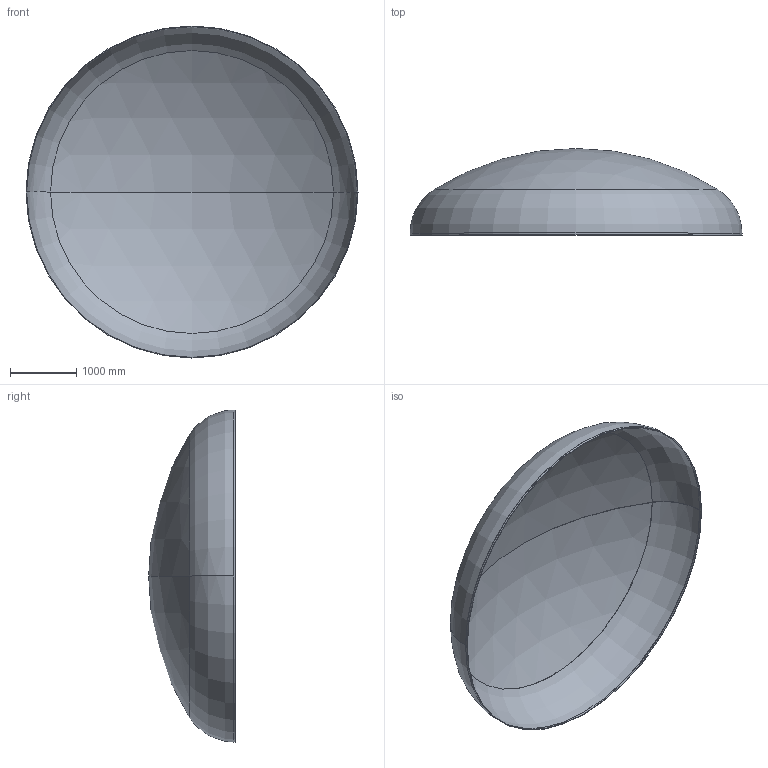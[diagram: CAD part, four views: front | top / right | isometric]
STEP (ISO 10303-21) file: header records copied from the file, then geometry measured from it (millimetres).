
FILE_DESCRIPTION (( 'STEP AP203' ), '1' );
FILE_NAME ('DIN 28013 Korbbogenform_-_Boden DIN 28013 - 5000 x 30 - I - s=9.step', '2016-07-02T00:03:01', ( '' ), ( '' ), 'SwSTEP 2.0', 'SolidWorks 2013', '' );
FILE_SCHEMA (( 'CONFIG_CONTROL_DESIGN' ));
Length unit declared in the file: millimetre
Products named in the file (1): DIN 28013 Korbbogenform_-_Boden DIN 28013 - 5000 x 30 - I - s=9
Bounding box: 5000 x 1305.68 x 5000 mm (x, y, z)
Volume: 248422399.9 mm3; surface area: 55346241.7 mm2
Topology: 1 solids, 1 shells, 13 faces, 24 edges, 14 vertices
Faces by surface type: torus 4, cylinder 4, sphere 4, plane 1
Entity records: 407 total; most frequent: DIRECTION 72, CARTESIAN_POINT 52, ORIENTED_EDGE 48, AXIS2_PLACEMENT_3D 34, EDGE_CURVE 24, CIRCLE 20, VERTEX_POINT 14, EDGE_LOOP 14
